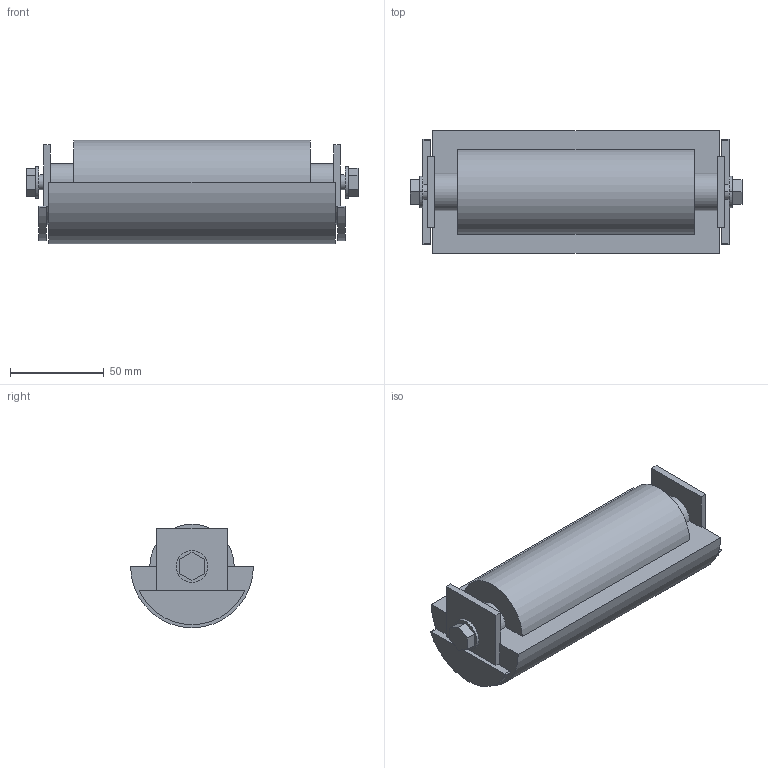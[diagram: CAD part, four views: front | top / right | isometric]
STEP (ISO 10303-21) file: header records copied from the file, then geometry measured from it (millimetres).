
FILE_DESCRIPTION (( 'STEP AP214' ), '1' );
FILE_NAME ('03.102I01.160.N FS-160-MTS2-100.INOX Idler section.STEP', '2025-02-11T10:34:12', ( '' ), ( '' ), 'SwSTEP 2.0', 'SolidWorks 2024', '' );
FILE_SCHEMA (( 'AUTOMOTIVE_DESIGN' ));
Length unit declared in the file: millimetre
Products named in the file (1): 03.102I01.160.N FS-160-MTS2-100.INOX Idler section
Bounding box: 176.8 x 65.4 x 55.2 mm (x, y, z)
Volume: 377184.2 mm3; surface area: 41524.1 mm2
Topology: 1 solids, 1 shells, 64 faces, 164 edges, 108 vertices
Faces by surface type: plane 40, cylinder 24
Entity records: 1967 total; most frequent: DIRECTION 342, CARTESIAN_POINT 337, ORIENTED_EDGE 328, EDGE_CURVE 164, LINE 116, VECTOR 116, AXIS2_PLACEMENT_3D 113, VERTEX_POINT 108
